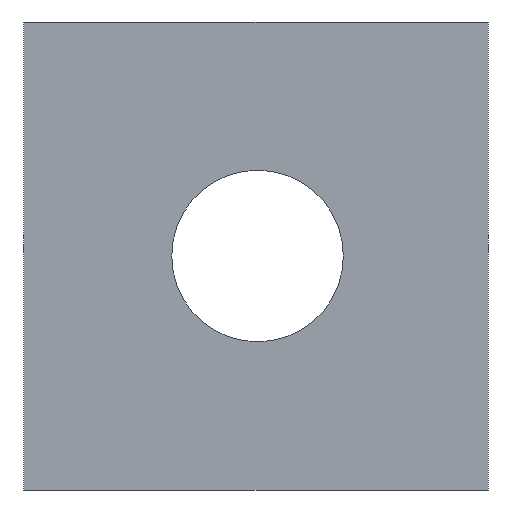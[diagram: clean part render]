
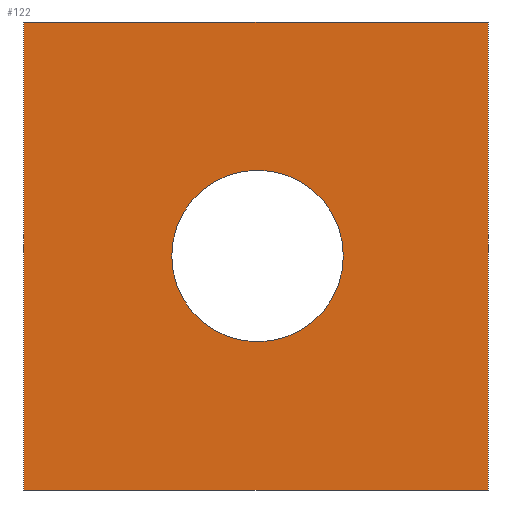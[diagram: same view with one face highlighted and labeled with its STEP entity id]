
A CAD part, front view. The second image highlights one B-rep face of the part: STEP entity #122.
In plain terms, the highlighted planar face has unit normal (0, -1, 0).
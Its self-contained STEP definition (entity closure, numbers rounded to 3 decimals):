
#1=CARTESIAN_POINT('',(0.,0.,0.));
#2=DIRECTION('',(0.,-1.,0.));
#3=DIRECTION('',(1.,0.,0.));
#4=AXIS2_PLACEMENT_3D('',#1,#2,#3);
#6=CARTESIAN_POINT('',(0.,0.,0.));
#7=DIRECTION('',(0.,-1.,0.));
#8=DIRECTION('',(-1.,0.,0.));
#9=AXIS2_PLACEMENT_3D('',#6,#7,#8);
#11=DIRECTION('',(0.,0.,1.));
#12=VECTOR('',#11,30.);
#13=CARTESIAN_POINT('',(-15.,0.,-15.));
#14=LINE('',#13,#12);
#15=DIRECTION('',(1.,0.,0.));
#16=VECTOR('',#15,29.8);
#17=CARTESIAN_POINT('',(-15.,0.,15.));
#18=LINE('',#17,#16);
#19=DIRECTION('',(0.,0.,-1.));
#20=VECTOR('',#19,30.);
#21=CARTESIAN_POINT('',(14.8,0.,15.));
#22=LINE('',#21,#20);
#23=DIRECTION('',(-1.,0.,0.));
#24=VECTOR('',#23,29.8);
#25=CARTESIAN_POINT('',(14.8,0.,-15.));
#26=LINE('',#25,#24);
#77=CARTESIAN_POINT('',(5.5,0.,0.));
#78=CARTESIAN_POINT('',(-5.5,0.,0.));
#79=VERTEX_POINT('',#77);
#80=VERTEX_POINT('',#78);
#81=CARTESIAN_POINT('',(-15.,0.,-15.));
#82=CARTESIAN_POINT('',(-15.,0.,15.));
#83=VERTEX_POINT('',#81);
#84=VERTEX_POINT('',#82);
#85=CARTESIAN_POINT('',(14.8,0.,15.));
#86=VERTEX_POINT('',#85);
#87=CARTESIAN_POINT('',(14.8,0.,-15.));
#88=VERTEX_POINT('',#87);
#101=CARTESIAN_POINT('',(0.,0.,0.));
#102=DIRECTION('',(0.,1.,0.));
#103=DIRECTION('',(1.,0.,0.));
#104=AXIS2_PLACEMENT_3D('',#101,#102,#103);
#105=PLANE('',#104);
#107=ORIENTED_EDGE('',*,*,#106,.T.);
#109=ORIENTED_EDGE('',*,*,#108,.T.);
#111=ORIENTED_EDGE('',*,*,#110,.T.);
#113=ORIENTED_EDGE('',*,*,#112,.T.);
#114=EDGE_LOOP('',(#107,#109,#111,#113));
#115=FACE_OUTER_BOUND('',#114,.F.);
#117=ORIENTED_EDGE('',*,*,#116,.T.);
#119=ORIENTED_EDGE('',*,*,#118,.T.);
#120=EDGE_LOOP('',(#117,#119));
#121=FACE_BOUND('',#120,.F.);
#122=ADVANCED_FACE('',(#115,#121),#105,.F.);
#5=CIRCLE('',#4,5.5);
#10=CIRCLE('',#9,5.5);
#106=EDGE_CURVE('',#83,#84,#14,.T.);
#108=EDGE_CURVE('',#84,#86,#18,.T.);
#110=EDGE_CURVE('',#86,#88,#22,.T.);
#112=EDGE_CURVE('',#88,#83,#26,.T.);
#116=EDGE_CURVE('',#79,#80,#5,.T.);
#118=EDGE_CURVE('',#80,#79,#10,.T.);
